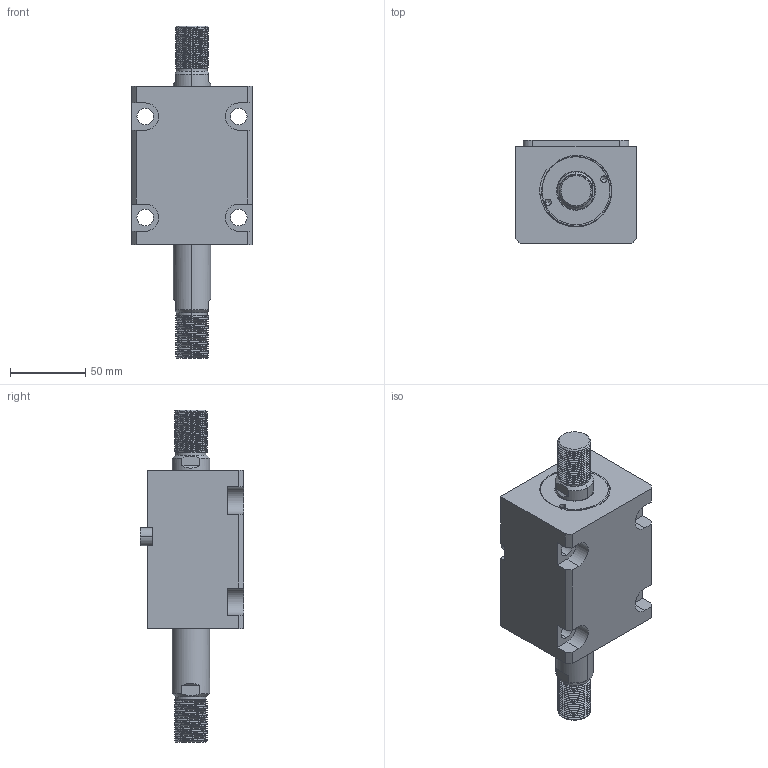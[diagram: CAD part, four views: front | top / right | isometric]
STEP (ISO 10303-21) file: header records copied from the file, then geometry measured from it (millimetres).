
FILE_DESCRIPTION (( 'STEP AP214' ), '1' );
FILE_NAME ('chtb-lwm40x35w_asm.STEP', '2018-05-31T00:40:09', ( 'Windows' ), ( 'Microsoft' ), 'SwSTEP 2.0', 'SolidWorks 2015', '' );
FILE_SCHEMA (( 'AUTOMOTIVE_DESIGN' ));
Length unit declared in the file: millimetre
Products named in the file (5): CHTB-SW40X35NHSG; CHTB-SD40QG; CHTB-LA40PJ; CHTB-LWM40X35NBT; chtb-lwm40x35w_asm
Assembly tree (4 placements, depth 2):
  chtb-lwm40x35w_asm
    CHTB-LWM40X35NBT
    CHTB-LA40PJ
    CHTB-SD40QG
    CHTB-SW40X35NHSG
Bounding box: 80 x 68.5 x 220 mm (x, y, z)
Volume: 525235.5 mm3; surface area: 96356.5 mm2
Topology: 4 solids, 4 shells, 252 faces, 699 edges, 465 vertices
Faces by surface type: cylinder 152, plane 57, bspline 18, cone 13, torus 12
Entity records: 17373 total; most frequent: CARTESIAN_POINT 11260, ORIENTED_EDGE 1386, DIRECTION 1092, EDGE_CURVE 693, VERTEX_POINT 465, AXIS2_PLACEMENT_3D 419, EDGE_LOOP 284, VECTOR 254
